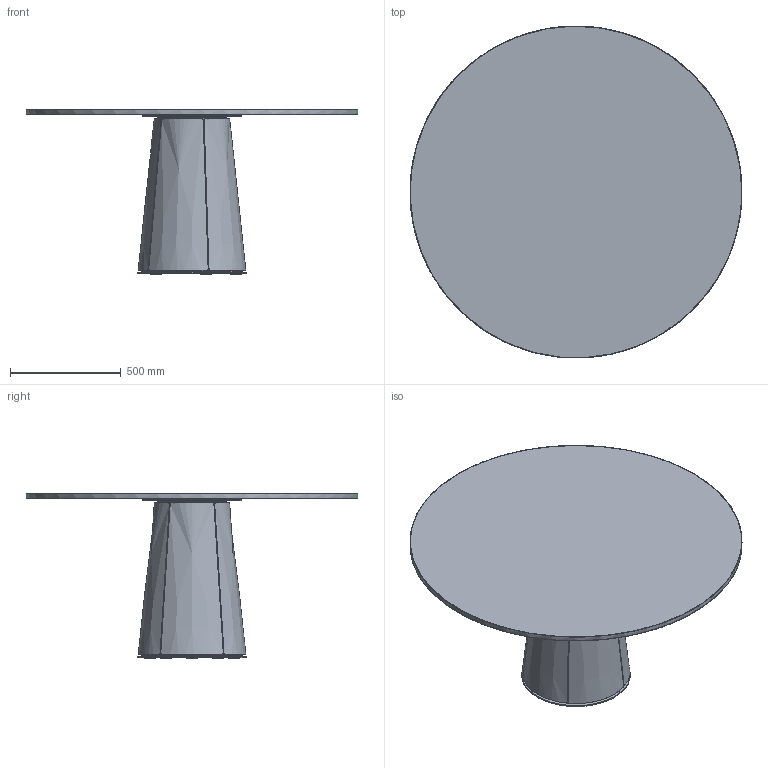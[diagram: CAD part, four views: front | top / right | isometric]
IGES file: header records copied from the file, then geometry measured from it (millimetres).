
Global section: file name: /Volumes/Team/Clients/Pulpo/2019 Bent Glass Table/_data export/20190222_BENT_dining table_150.igs; preprocessor: Trout Lake IGES 012 Jan 28 2019; date: 190222.101211; units: millimetre
Bounding box: 1499.8 x 1499.63 x 744 mm (x, y, z)
Surface area: 7406111.5 mm2 (no closed solid volume)
Topology: 0 solids, 0 shells, 188 faces, 2335 edges, 2306 vertices
Faces by surface type: bspline 188
